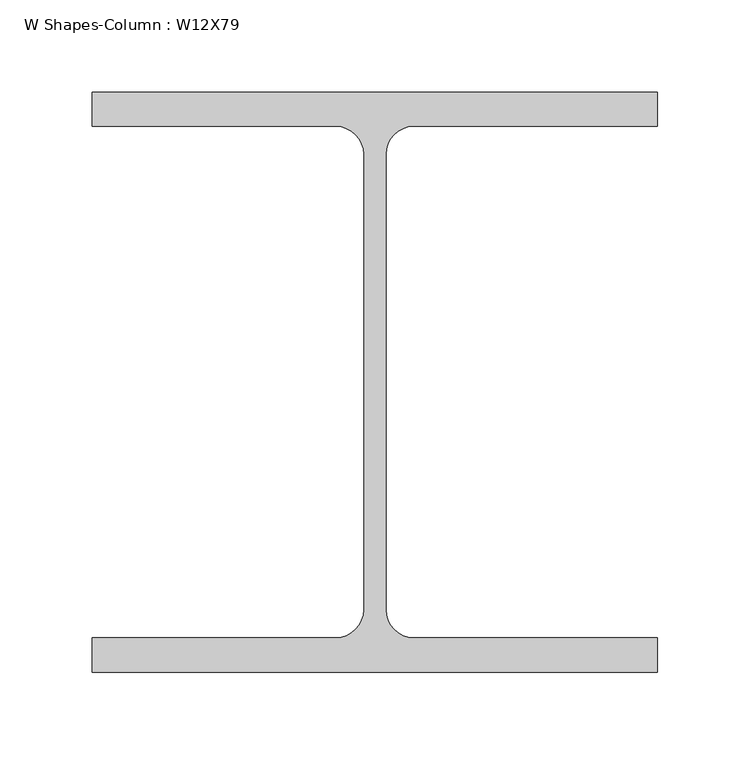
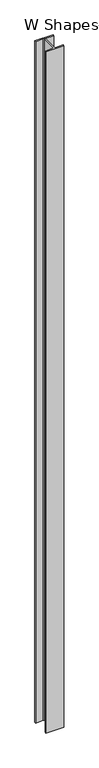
"""IFC4 building model written with IfcOpenShell, lengths in millimetres: column geometry, W Shapes-Column : W12X79."""

from ifc_helpers import new_model, si_unit, point, frame, frame_2d, origin, place, context, project, spatial, polyline, circle_curve, trimmed, segment, composite_curve, outline, extrude, source, transform, mapped, element, save


def w_shapes_column_w12x79_d0459791(model_context):
    return source(origin(), model_context, "Body", "SweptSolid", [
        extrude(outline(composite_curve([segment(polyline([(153.67, 157.48), (153.67, 138.811), (21.082, 138.811)]), True, "CONTINUOUS"), segment(trimmed(circle_curve(frame_2d((21.082, 123.698)), 15.113), [point((21.082, 138.811))], [point((5.969, 123.698))], True, "CARTESIAN"), True, "CONTINUOUS"), segment(polyline([(5.969, 123.698), (5.969, -123.698)]), True, "CONTINUOUS"), segment(trimmed(circle_curve(frame_2d((21.082, -123.698)), 15.113), [point((5.969, -123.698))], [point((21.082, -138.811))], True, "CARTESIAN"), True, "CONTINUOUS"), segment(polyline([(21.082, -138.811), (153.67, -138.811), (153.67, -157.48), (-153.67, -157.48), (-153.67, -138.811), (-21.082, -138.811)]), True, "CONTINUOUS"), segment(trimmed(circle_curve(frame_2d((-21.082, -123.698)), 15.113), [point((-21.082, -138.811))], [point((-5.969, -123.698))], True, "CARTESIAN"), True, "CONTINUOUS"), segment(polyline([(-5.969, -123.698), (-5.969, 123.698)]), True, "CONTINUOUS"), segment(trimmed(circle_curve(frame_2d((-21.082, 123.698)), 15.113), [point((-5.969, 123.698))], [point((-21.082, 138.811))], True, "CARTESIAN"), True, "CONTINUOUS"), segment(polyline([(-21.082, 138.811), (-153.67, 138.811), (-153.67, 157.48), (153.67, 157.48)]), True, "CONTINUOUS")], self_intersect=False)), frame((0.0, 0.0, -450.0), z_axis=(0.0, 0.0, 1.0), x_axis=(1.0, 0.0, 0.0)), (0.0, 0.0, 1.0), 12150.0),
    ])


if __name__ == "__main__":
    model = new_model("IFC4")
    model_context = context("Model", 3, world=origin())
    ifc_project = project(units=[si_unit("LENGTHUNIT", "METRE", prefix="MILLI")], contexts=[model_context])
    site = spatial("IfcSite", under=ifc_project)
    building = spatial("IfcBuilding", under=site)
    placement = place(None, origin())
    w_shapes_column_w12x79_shape = w_shapes_column_w12x79_d0459791(model_context)
    element("IfcColumn", 1, ObjectType="W Shapes-Column : W12X79", at=placement, inside=building, context=model_context, shape_type="MappedRepresentation", body=[
        mapped(w_shapes_column_w12x79_shape, transform((0.0, 0.0, 0.0), x_axis=(1.0, 0.0, 0.0), y_axis=(0.0, 1.0, 0.0), z_axis=(0.0, 0.0, 1.0))),
    ])
    save(model, "model.ifc")
